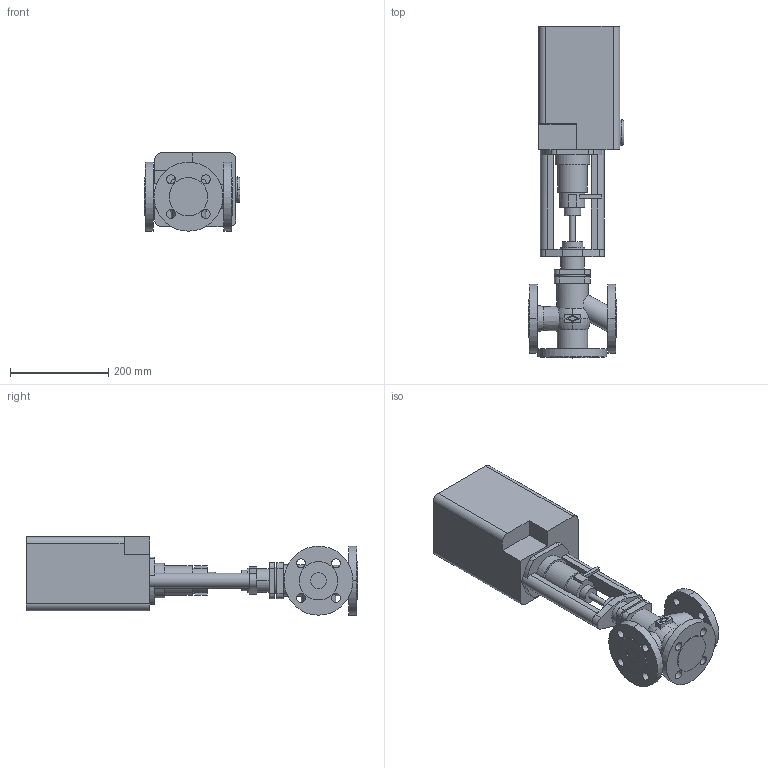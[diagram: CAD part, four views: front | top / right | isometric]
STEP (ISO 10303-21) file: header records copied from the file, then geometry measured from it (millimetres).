
FILE_DESCRIPTION(('OneSpaceDesigner STEP Export'),'2;1');
FILE_NAME('c000002387.stp','2006-09-19T11:55:15',(''),(''),'OneSpace Designer STEP processor for AP214 (Solid Model)','OneSpace Designer 13.20A 18-Aug-2005 (C) CoCreate Software GmbH','');
FILE_SCHEMA(('AUTOMOTIVE_DESIGN { 1 0 10303 214 1 1 1 1 }'));
Length unit declared in the file: millimetre
Products named in the file (2): 1; 2
Bounding box: 194.6 x 674 x 159 mm (x, y, z)
Volume: 8438386.6 mm3; surface area: 465078.5 mm2
Topology: 2 solids, 2 shells, 196 faces, 499 edges, 331 vertices
Faces by surface type: cylinder 94, plane 90, torus 8, cone 4
Entity records: 5794 total; most frequent: CARTESIAN_POINT 1266, ORIENTED_EDGE 998, DIRECTION 847, EDGE_CURVE 499, VERTEX_POINT 331, AXIS2_PLACEMENT_3D 296, VECTOR 255, LINE 255
